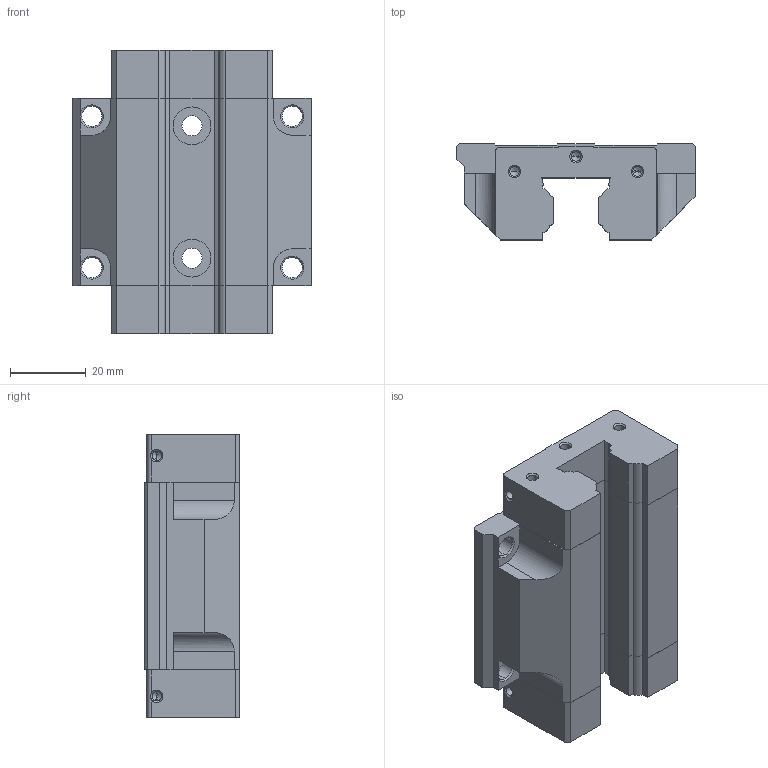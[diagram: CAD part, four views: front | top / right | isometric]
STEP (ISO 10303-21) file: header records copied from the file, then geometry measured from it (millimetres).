
FILE_DESCRIPTION (( 'STEP AP214' ), '1' );
FILE_NAME ('RUSIZE_11168241923.step', '2006-11-16T13:02:48', ( 'SysAdmin' ), ( 'SolidWorks' ), 'SwSTEP 2.0', 'SolidWorks 2007', '' );
FILE_SCHEMA (( 'AUTOMOTIVE_DESIGN' ));
Length unit declared in the file: millimetre
Products named in the file (1): RUSIZE_11168241923
Bounding box: 63 x 25.35 x 75 mm (x, y, z)
Volume: 74153.1 mm3; surface area: 21246.8 mm2
Topology: 3 solids, 3 shells, 240 faces, 640 edges, 394 vertices
Faces by surface type: plane 108, cone 64, cylinder 64, bspline 4
Entity records: 8131 total; most frequent: CARTESIAN_POINT 1405, ORIENTED_EDGE 1240, DIRECTION 1238, EDGE_CURVE 620, LINE 424, VECTOR 424, AXIS2_PLACEMENT_3D 407, VERTEX_POINT 394
